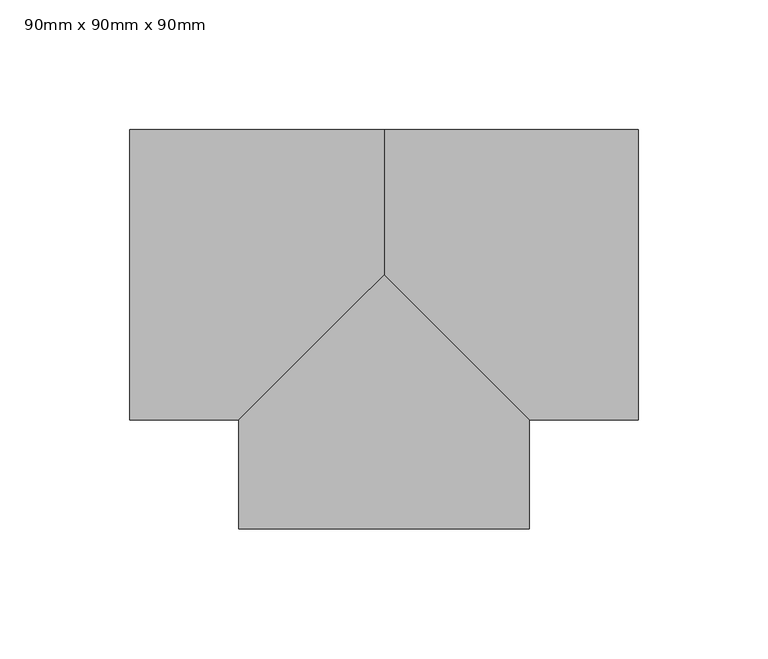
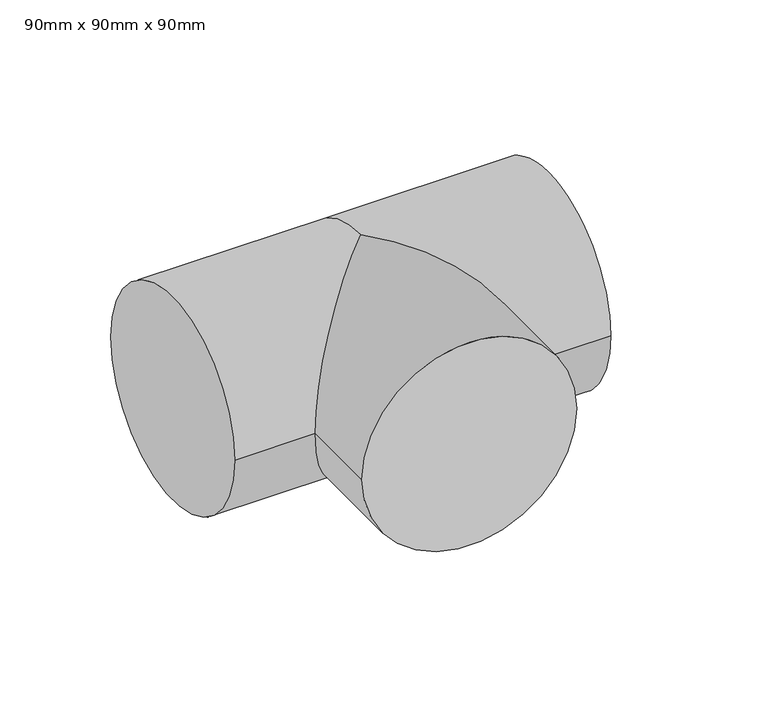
"""IFC4 building model written with IfcOpenShell, lengths in millimetres: pipe fitting geometry, PipeFitting_HTA_CPVC_Tees90° : 90mm x 90mm x 90mm."""

from ifc_helpers import new_model, si_unit, frame, origin, place, context, project, spatial, circle_curve, ellipse_curve, source, transform, mapped, element, save
from ifc_brep_helpers import plane_surface, cylinder_surface, advanced_brep


def pipe_fitting_90mm_x_90mm_x_90mm_ec033306(model_context):
    return source(origin(), model_context, "Body", "AdvancedBrep", [
        advanced_brep(
        [(-56.0, -98.0, 0.0), (56.0, -98.0, 0.0), (56.0, -56.0, 0.0), (0.0, 0.0, 56.0), (-56.0, -56.0, 0.0), (0.0, 0.0, -56.0), (-98.0, -56.0, 0.0), (-98.0, 56.0, 0.0), (0.0, 56.0, 0.0), (98.0, -56.0, 0.0), (98.0, 56.0, 0.0)],
        [
            (0, 1, circle_curve(frame((0.0, -98.0, 0.0), z_axis=(0.0, -1.0, 0.0), x_axis=(1.0, 0.0, 0.0)), 56.0)),
            (1, 0, circle_curve(frame((0.0, -98.0, 0.0), z_axis=(0.0, -1.0, 0.0), x_axis=(1.0, 0.0, 0.0)), 56.0)),
            (1, 2),
            (2, 3, ellipse_curve(frame((0.0, 0.0, 0.0), z_axis=(-0.7071067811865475, -0.7071067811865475, 0.0), x_axis=(-0.7071067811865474, 0.7071067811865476, 0.0)), 79.1959595, 56.0)),
            (3, 4, ellipse_curve(frame((0.0, 0.0, 0.0), z_axis=(0.7071067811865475, -0.7071067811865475, 0.0), x_axis=(0.7071067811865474, 0.7071067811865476, 0.0)), 79.1959595, 56.0)),
            (4, 0),
            (4, 5, ellipse_curve(frame((0.0, 0.0, 0.0), z_axis=(0.7071067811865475, -0.7071067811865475, 0.0), x_axis=(0.7071067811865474, 0.7071067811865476, 0.0)), 79.1959595, 56.0)),
            (5, 2, ellipse_curve(frame((0.0, 0.0, 0.0), z_axis=(-0.7071067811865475, -0.7071067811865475, 0.0), x_axis=(-0.7071067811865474, 0.7071067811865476, 0.0)), 79.1959595, 56.0)),
            (6, 7, circle_curve(frame((-98.0, 0.0, 0.0), z_axis=(-1.0, 0.0, 0.0), x_axis=(0.0, 1.0, 0.0)), 56.0)),
            (7, 6, circle_curve(frame((-98.0, 0.0, 0.0), z_axis=(-1.0, 0.0, 0.0), x_axis=(0.0, 1.0, 0.0)), 56.0)),
            (6, 4),
            (3, 8, circle_curve(frame((0.0, 0.0, 0.0), z_axis=(-1.0, 0.0, 0.0), x_axis=(0.0, 1.0, 0.0)), 56.0)),
            (8, 7),
            (8, 5, circle_curve(frame((0.0, 0.0, 0.0), z_axis=(-1.0, 0.0, 0.0), x_axis=(0.0, 1.0, 0.0)), 56.0)),
            (9, 10, circle_curve(frame((98.0, 0.0, 0.0), z_axis=(1.0, 0.0, 0.0), x_axis=(0.0, 1.0, 0.0)), 56.0)),
            (10, 9, circle_curve(frame((98.0, 0.0, 0.0), z_axis=(1.0, 0.0, 0.0), x_axis=(0.0, 1.0, 0.0)), 56.0)),
            (10, 8),
            (2, 9),
        ],
        [
            plane_surface(frame((0.0, -98.0, 0.0), z_axis=(0.0, -1.0, 0.0), x_axis=(0.0, 0.0, 1.0))),
            cylinder_surface(frame((0.0, 0.0, 0.0), z_axis=(0.0, 1.0, 0.0), x_axis=(1.0, 0.0, 0.0)), 56.0),
            plane_surface(frame((-98.0, 0.0, 0.0), z_axis=(-1.0, 0.0, 0.0), x_axis=(0.0, 0.0, 1.0))),
            cylinder_surface(frame((-98.0, 0.0, 0.0), z_axis=(-1.0, 0.0, 0.0), x_axis=(0.0, 1.0, 0.0)), 56.0),
            plane_surface(frame((98.0, 0.0, 0.0), z_axis=(1.0, 0.0, 0.0), x_axis=(0.0, 0.0, 1.0))),
            cylinder_surface(frame((0.0, 0.0, 0.0), z_axis=(-1.0, 0.0, 0.0), x_axis=(0.0, 1.0, 0.0)), 56.0),
        ],
        [
            (0, [[1, 2]]),
            (1, [[-2, 3, 4, 5, 6]]),
            (1, [[-1, -6, 7, 8, -3]]),
            (2, [[9, 10]]),
            (3, [[-9, 11, -5, 12, 13]]),
            (3, [[-10, -13, 14, -7, -11]]),
            (4, [[15, 16]]),
            (5, [[-16, 17, -12, -4, 18]]),
            (5, [[-15, -18, -8, -14, -17]]),
        ],
    ),
    ])


if __name__ == "__main__":
    model = new_model("IFC4")
    model_context = context("Model", 3, world=origin())
    ifc_project = project(units=[si_unit("LENGTHUNIT", "METRE", prefix="MILLI")], contexts=[model_context])
    site = spatial("IfcSite", under=ifc_project)
    building = spatial("IfcBuilding", under=site)
    placement = place(None, origin())
    pipe_fitting_90mm_x_90mm_x_90mm_shape = pipe_fitting_90mm_x_90mm_x_90mm_ec033306(model_context)
    element("IfcPipeFitting", 1, ObjectType="PipeFitting_HTA_CPVC_Tees90° : 90mm x 90mm x 90mm", at=placement, inside=building, context=model_context, shape_type="MappedRepresentation", body=[
        mapped(pipe_fitting_90mm_x_90mm_x_90mm_shape, transform((0.0, 0.0, 0.0), x_axis=(1.0, 0.0, 0.0), y_axis=(0.0, 1.0, 0.0), z_axis=(0.0, 0.0, 1.0))),
    ])
    save(model, "model.ifc")
